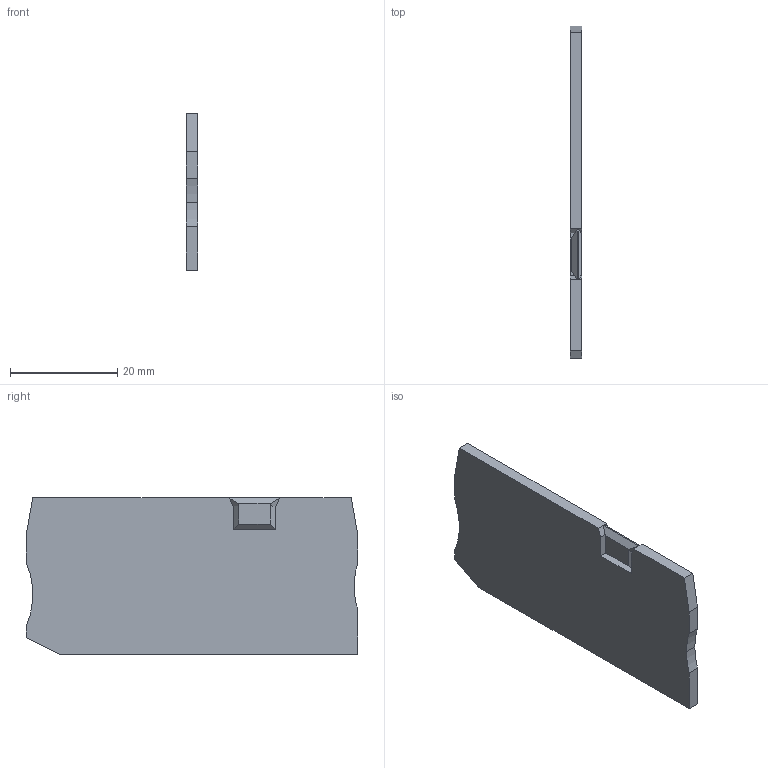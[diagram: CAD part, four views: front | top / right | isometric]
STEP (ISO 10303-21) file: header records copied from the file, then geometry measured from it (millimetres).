
FILE_DESCRIPTION(('TFLEX Exchange Step'),'2;1');
FILE_NAME('14200005_К-КНБ_2,5-2-РЗМ.stp', '2025-06-24T11:25:12+03:00',('MVarava'),('Unknown organisation'),'TFLEX Exchange 2023.0','T-FLEX CAD','Unknown authorisation');
FILE_SCHEMA( ('AUTOMOTIVE_DESIGN { 1 0 10303 214 1 1 1 1 }') );
Length unit declared in the file: millimetre
Products named in the file (1): Nodes
Bounding box: 2.2 x 61.9 x 29.25 mm (x, y, z)
Volume: 3865.8 mm3; surface area: 3995.8 mm2
Topology: 1 solids, 1 shells, 261 faces, 744 edges, 492 vertices
Faces by surface type: cylinder 166, plane 95
Entity records: 8551 total; most frequent: CARTESIAN_POINT 1675, ORIENTED_EDGE 1488, DIRECTION 1457, EDGE_CURVE 744, AXIS2_PLACEMENT_3D 544, VERTEX_POINT 492, VECTOR 369, LINE 369
